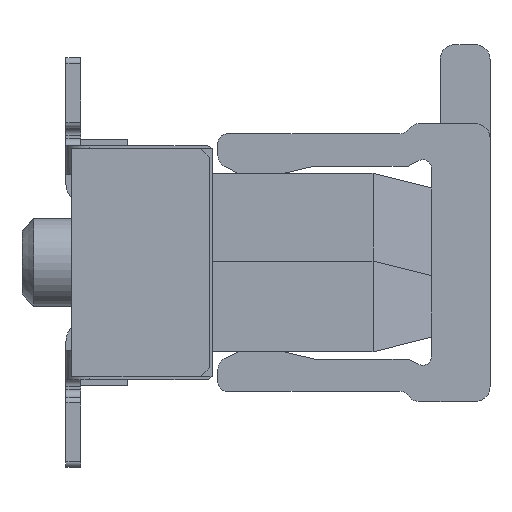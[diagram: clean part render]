
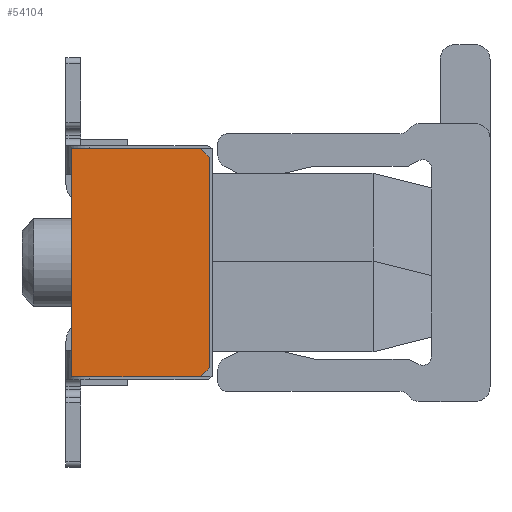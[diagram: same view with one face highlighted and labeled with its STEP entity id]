
A CAD part, left-side view. The second image highlights one B-rep face of the part: STEP entity #54104.
In plain terms, the highlighted planar face has unit normal (-1, 0, 0).
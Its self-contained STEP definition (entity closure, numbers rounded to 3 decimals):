
#12485 = PLANE ( 'NONE',  #136171 ) ;
#12520 = FACE_OUTER_BOUND ( 'NONE', #20170, .T. ) ;
#12540 = CARTESIAN_POINT ( 'NONE',  ( -47.73, -7.61, -3.625 ) ) ;
#12542 = DIRECTION ( 'NONE',  ( -1., 0., 0. ) ) ;
#12544 = DIRECTION ( 'NONE',  ( 0., 0., 1. ) ) ;
#20170 = EDGE_LOOP ( 'NONE', ( #104821, #104824, #104827, #104829, #104831, #104834 ) ) ;
#41916 = LINE ( 'NONE', #41919, #50301 ) ;
#41919 = CARTESIAN_POINT ( 'NONE',  ( -47.73, -7.31, -3.475 ) ) ;
#41944 = DIRECTION ( 'NONE',  ( 0., -0.707, 0.707 ) ) ;
#43509 = LINE ( 'NONE', #43530, #51085 ) ;
#43530 = CARTESIAN_POINT ( 'NONE',  ( -47.73, -4.26, -3.475 ) ) ;
#43535 = DIRECTION ( 'NONE',  ( 0., -1., 0. ) ) ;
#43619 = CARTESIAN_POINT ( 'NONE',  ( -47.73, -7.46, 0.275 ) ) ;
#43792 = CARTESIAN_POINT ( 'NONE',  ( -47.73, -7.46, -3.325 ) ) ;
#44310 = LINE ( 'NONE', #44314, #51346 ) ;
#44314 = CARTESIAN_POINT ( 'NONE',  ( -47.73, -7.46, 0.275 ) ) ;
#44317 = DIRECTION ( 'NONE',  ( 0., 0.707, 0.707 ) ) ;
#44407 = VECTOR ( 'NONE', #46761, 1000. ) ;
#44757 = VECTOR ( 'NONE', #47423, 1000. ) ;
#44760 = VECTOR ( 'NONE', #47429, 1000. ) ;
#46756 = LINE ( 'NONE', #46759, #44407 ) ;
#46759 = CARTESIAN_POINT ( 'NONE',  ( -47.73, -7.46, -3.625 ) ) ;
#46761 = DIRECTION ( 'NONE',  ( 0., 0., 1. ) ) ;
#47419 = LINE ( 'NONE', #47422, #44757 ) ;
#47422 = CARTESIAN_POINT ( 'NONE',  ( -47.73, -5.11, -0.29 ) ) ;
#47423 = DIRECTION ( 'NONE',  ( 0., 0., -1. ) ) ;
#47425 = LINE ( 'NONE', #47428, #44760 ) ;
#47428 = CARTESIAN_POINT ( 'NONE',  ( -47.73, -4.26, 0.425 ) ) ;
#47429 = DIRECTION ( 'NONE',  ( 0., 1., 0. ) ) ;
#50301 = VECTOR ( 'NONE', #41944, 1000. ) ;
#51085 = VECTOR ( 'NONE', #43535, 1000. ) ;
#51346 = VECTOR ( 'NONE', #44317, 1000. ) ;
#54104 = ADVANCED_FACE ( 'NONE', ( #12520 ), #12485, .T. ) ;
#104821 = ORIENTED_EDGE ( 'NONE', *, *, #132168, .T. ) ;
#104824 = ORIENTED_EDGE ( 'NONE', *, *, #131765, .T. ) ;
#104827 = ORIENTED_EDGE ( 'NONE', *, *, #132991, .T. ) ;
#104829 = ORIENTED_EDGE ( 'NONE', *, *, #132298, .T. ) ;
#104831 = ORIENTED_EDGE ( 'NONE', *, *, #133188, .T. ) ;
#104834 = ORIENTED_EDGE ( 'NONE', *, *, #133186, .T. ) ;
#114108 = VERTEX_POINT ( 'NONE', #43619 ) ;
#114590 = VERTEX_POINT ( 'NONE', #43792 ) ;
#121946 = CARTESIAN_POINT ( 'NONE',  ( -47.73, -5.11, -3.475 ) ) ;
#122208 = CARTESIAN_POINT ( 'NONE',  ( -47.73, -5.11, 0.425 ) ) ;
#122698 = CARTESIAN_POINT ( 'NONE',  ( -47.73, -7.31, 0.425 ) ) ;
#122715 = CARTESIAN_POINT ( 'NONE',  ( -47.73, -7.31, -3.475 ) ) ;
#131765 = EDGE_CURVE ( 'NONE', #135685, #114590, #41916, .T. ) ;
#132168 = EDGE_CURVE ( 'NONE', #135417, #135685, #43509, .T. ) ;
#132298 = EDGE_CURVE ( 'NONE', #114108, #135675, #44310, .T. ) ;
#132991 = EDGE_CURVE ( 'NONE', #114590, #114108, #46756, .T. ) ;
#133186 = EDGE_CURVE ( 'NONE', #135482, #135417, #47419, .T. ) ;
#133188 = EDGE_CURVE ( 'NONE', #135675, #135482, #47425, .T. ) ;
#135417 = VERTEX_POINT ( 'NONE', #121946 ) ;
#135482 = VERTEX_POINT ( 'NONE', #122208 ) ;
#135675 = VERTEX_POINT ( 'NONE', #122698 ) ;
#135685 = VERTEX_POINT ( 'NONE', #122715 ) ;
#136171 = AXIS2_PLACEMENT_3D ( 'NONE', #12540, #12542, #12544 ) ;
